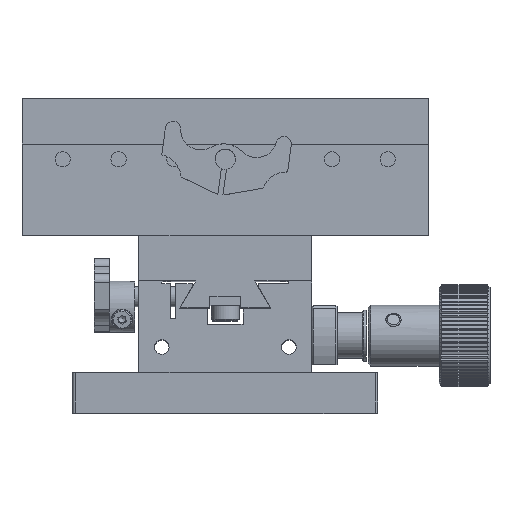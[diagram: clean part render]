
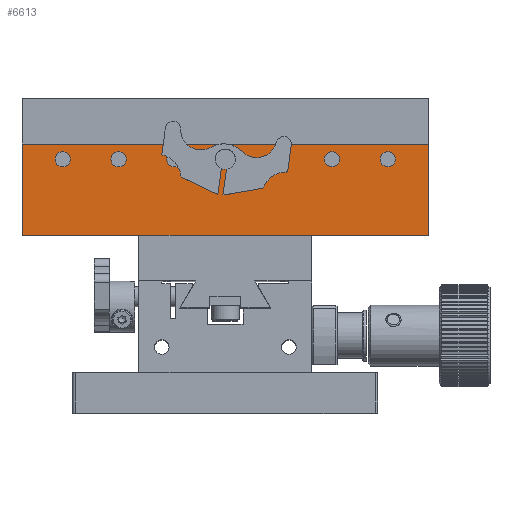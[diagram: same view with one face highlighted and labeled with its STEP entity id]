
A CAD part, top view. The second image highlights one B-rep face of the part: STEP entity #6613.
In plain terms, the highlighted planar face has unit normal (0, 0, 1).
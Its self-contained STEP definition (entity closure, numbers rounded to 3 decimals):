
#4124 = AXIS2_PLACEMENT_3D ( 'NONE', #5216, #5215, #5220 ) ;
#4867 = AXIS2_PLACEMENT_3D ( 'NONE', #8070, #8071, #8072 ) ;
#4873 = AXIS2_PLACEMENT_3D ( 'NONE', #8085, #8086, #8087 ) ;
#4876 = AXIS2_PLACEMENT_3D ( 'NONE', #8092, #8093, #8094 ) ;
#4883 = AXIS2_PLACEMENT_3D ( 'NONE', #8102, #8103, #8104 ) ;
#4991 = AXIS2_PLACEMENT_3D ( 'NONE', #16701, #16703, #16705 ) ;
#4993 = AXIS2_PLACEMENT_3D ( 'NONE', #16714, #16716, #16718 ) ;
#4995 = AXIS2_PLACEMENT_3D ( 'NONE', #16731, #16732, #16734 ) ;
#5215 = DIRECTION ( 'NONE',  ( 0., 0., -1. ) ) ;
#5216 = CARTESIAN_POINT ( 'NONE',  ( 15.953, 11.455, 17. ) ) ;
#5218 = PLANE ( 'NONE',  #4124 ) ;
#5220 = DIRECTION ( 'NONE',  ( -1., 0., 0. ) ) ;
#6613 = ADVANCED_FACE ( 'NONE', ( #23711, #23706, #23712, #23710, #23708, #23705, #23704, #23703 ), #5218, .F. ) ;
#7975 = CARTESIAN_POINT ( 'NONE',  ( 15.953, 11.455, 17. ) ) ;
#7976 = DIRECTION ( 'NONE',  ( -1., 0., 0. ) ) ;
#8070 = CARTESIAN_POINT ( 'NONE',  ( -14.047, 26.455, 17. ) ) ;
#8071 = DIRECTION ( 'NONE',  ( 0., 0., 1. ) ) ;
#8072 = DIRECTION ( 'NONE',  ( 1., 0., 0. ) ) ;
#8075 = CARTESIAN_POINT ( 'NONE',  ( 15.953, 29.455, 17. ) ) ;
#8084 = DIRECTION ( 'NONE',  ( -1., 0., 0. ) ) ;
#8085 = CARTESIAN_POINT ( 'NONE',  ( -34.047, 26.455, 17. ) ) ;
#8086 = DIRECTION ( 'NONE',  ( 0., 0., 1. ) ) ;
#8087 = DIRECTION ( 'NONE',  ( 1., 0., 0. ) ) ;
#8092 = CARTESIAN_POINT ( 'NONE',  ( -45.047, 26.455, 17. ) ) ;
#8093 = DIRECTION ( 'NONE',  ( 0., 0., 1. ) ) ;
#8094 = DIRECTION ( 'NONE',  ( 1., 0., 0. ) ) ;
#8102 = CARTESIAN_POINT ( 'NONE',  ( -56.047, 26.455, 17. ) ) ;
#8103 = DIRECTION ( 'NONE',  ( 0., 0., 1. ) ) ;
#8104 = DIRECTION ( 'NONE',  ( 1., 0., 0. ) ) ;
#9368 = ORIENTED_EDGE ( 'NONE', *, *, #21680, .T. ) ;
#9369 = ORIENTED_EDGE ( 'NONE', *, *, #24382, .F. ) ;
#9370 = ORIENTED_EDGE ( 'NONE', *, *, #21637, .F. ) ;
#9371 = ORIENTED_EDGE ( 'NONE', *, *, #24381, .T. ) ;
#9372 = ORIENTED_EDGE ( 'NONE', *, *, #24379, .F. ) ;
#9373 = ORIENTED_EDGE ( 'NONE', *, *, #21686, .F. ) ;
#9374 = ORIENTED_EDGE ( 'NONE', *, *, #21683, .F. ) ;
#9375 = ORIENTED_EDGE ( 'NONE', *, *, #21681, .F. ) ;
#9376 = ORIENTED_EDGE ( 'NONE', *, *, #21674, .F. ) ;
#9377 = ORIENTED_EDGE ( 'NONE', *, *, #24375, .F. ) ;
#9378 = ORIENTED_EDGE ( 'NONE', *, *, #24377, .F. ) ;
#10904 = CARTESIAN_POINT ( 'NONE',  ( -12.547, 26.455, 17. ) ) ;
#10907 = CARTESIAN_POINT ( 'NONE',  ( -32.547, 26.455, 17. ) ) ;
#10909 = CARTESIAN_POINT ( 'NONE',  ( -43.547, 26.455, 17. ) ) ;
#10912 = CARTESIAN_POINT ( 'NONE',  ( -54.547, 26.455, 17. ) ) ;
#10953 = CARTESIAN_POINT ( 'NONE',  ( -1.547, 26.455, 17. ) ) ;
#10954 = CARTESIAN_POINT ( 'NONE',  ( 9.453, 26.455, 17. ) ) ;
#10955 = CARTESIAN_POINT ( 'NONE',  ( -22.397, 26.455, 17. ) ) ;
#12690 = VECTOR ( 'NONE', #7976, 1000. ) ;
#12693 = LINE ( 'NONE', #7975, #12690 ) ;
#14868 = EDGE_LOOP ( 'NONE', ( #9371, #9370, #9369, #9368 ) ) ;
#14869 = EDGE_LOOP ( 'NONE', ( #9372 ) ) ;
#14870 = EDGE_LOOP ( 'NONE', ( #9373 ) ) ;
#14871 = EDGE_LOOP ( 'NONE', ( #9374 ) ) ;
#14872 = EDGE_LOOP ( 'NONE', ( #9375 ) ) ;
#14873 = EDGE_LOOP ( 'NONE', ( #9376 ) ) ;
#14876 = EDGE_LOOP ( 'NONE', ( #9378 ) ) ;
#14877 = EDGE_LOOP ( 'NONE', ( #9377 ) ) ;
#15960 = CARTESIAN_POINT ( 'NONE',  ( -64.047, 11.455, 17. ) ) ;
#15964 = CARTESIAN_POINT ( 'NONE',  ( 15.953, 11.455, 17. ) ) ;
#15966 = CARTESIAN_POINT ( 'NONE',  ( -64.047, 29.455, 17. ) ) ;
#15970 = CARTESIAN_POINT ( 'NONE',  ( 15.953, 29.455, 17. ) ) ;
#16701 = CARTESIAN_POINT ( 'NONE',  ( -3.047, 26.455, 17. ) ) ;
#16703 = DIRECTION ( 'NONE',  ( 0., 0., 1. ) ) ;
#16705 = DIRECTION ( 'NONE',  ( 1., 0., 0. ) ) ;
#16714 = CARTESIAN_POINT ( 'NONE',  ( 7.953, 26.455, 17. ) ) ;
#16716 = DIRECTION ( 'NONE',  ( 0., 0., 1. ) ) ;
#16718 = DIRECTION ( 'NONE',  ( 1., 0., 0. ) ) ;
#16731 = CARTESIAN_POINT ( 'NONE',  ( -24.047, 26.455, 17. ) ) ;
#16732 = DIRECTION ( 'NONE',  ( 0., 0., 1. ) ) ;
#16734 = DIRECTION ( 'NONE',  ( 1., 0., 0. ) ) ;
#16742 = CARTESIAN_POINT ( 'NONE',  ( -64.047, 11.455, 17. ) ) ;
#16744 = DIRECTION ( 'NONE',  ( 0., -1., 0. ) ) ;
#16746 = CARTESIAN_POINT ( 'NONE',  ( 15.953, 11.455, 17. ) ) ;
#16749 = DIRECTION ( 'NONE',  ( 0., -1., 0. ) ) ;
#21637 = EDGE_CURVE ( 'NONE', #22459, #22455, #12693, .T. ) ;
#21674 = EDGE_CURVE ( 'NONE', #24889, #24889, #23211, .T. ) ;
#21680 = EDGE_CURVE ( 'NONE', #22465, #22461, #23200, .T. ) ;
#21681 = EDGE_CURVE ( 'NONE', #24886, #24886, #23202, .T. ) ;
#21683 = EDGE_CURVE ( 'NONE', #24884, #24884, #23195, .T. ) ;
#21686 = EDGE_CURVE ( 'NONE', #24881, #24881, #23192, .T. ) ;
#22455 = VERTEX_POINT ( 'NONE', #15960 ) ;
#22459 = VERTEX_POINT ( 'NONE', #15964 ) ;
#22461 = VERTEX_POINT ( 'NONE', #15966 ) ;
#22465 = VERTEX_POINT ( 'NONE', #15970 ) ;
#23016 = VECTOR ( 'NONE', #16749, 1000. ) ;
#23018 = LINE ( 'NONE', #16742, #23023 ) ;
#23019 = LINE ( 'NONE', #16746, #23016 ) ;
#23023 = VECTOR ( 'NONE', #16744, 1000. ) ;
#23025 = CIRCLE ( 'NONE', #4995, 1.65 ) ;
#23026 = CIRCLE ( 'NONE', #4991, 1.5 ) ;
#23045 = CIRCLE ( 'NONE', #4993, 1.5 ) ;
#23192 = CIRCLE ( 'NONE', #4883, 1.5 ) ;
#23195 = CIRCLE ( 'NONE', #4876, 1.5 ) ;
#23198 = VECTOR ( 'NONE', #8084, 1000. ) ;
#23200 = LINE ( 'NONE', #8075, #23198 ) ;
#23202 = CIRCLE ( 'NONE', #4873, 1.5 ) ;
#23211 = CIRCLE ( 'NONE', #4867, 1.5 ) ;
#23703 = FACE_OUTER_BOUND ( 'NONE', #14868, .T. ) ;
#23704 = FACE_BOUND ( 'NONE', #14869, .T. ) ;
#23705 = FACE_BOUND ( 'NONE', #14870, .T. ) ;
#23706 = FACE_BOUND ( 'NONE', #14877, .T. ) ;
#23708 = FACE_BOUND ( 'NONE', #14871, .T. ) ;
#23710 = FACE_BOUND ( 'NONE', #14872, .T. ) ;
#23711 = FACE_BOUND ( 'NONE', #14876, .T. ) ;
#23712 = FACE_BOUND ( 'NONE', #14873, .T. ) ;
#24375 = EDGE_CURVE ( 'NONE', #24840, #24840, #23026, .T. ) ;
#24377 = EDGE_CURVE ( 'NONE', #24839, #24839, #23045, .T. ) ;
#24379 = EDGE_CURVE ( 'NONE', #24838, #24838, #23025, .T. ) ;
#24381 = EDGE_CURVE ( 'NONE', #22461, #22455, #23018, .T. ) ;
#24382 = EDGE_CURVE ( 'NONE', #22465, #22459, #23019, .T. ) ;
#24838 = VERTEX_POINT ( 'NONE', #10955 ) ;
#24839 = VERTEX_POINT ( 'NONE', #10954 ) ;
#24840 = VERTEX_POINT ( 'NONE', #10953 ) ;
#24881 = VERTEX_POINT ( 'NONE', #10912 ) ;
#24884 = VERTEX_POINT ( 'NONE', #10909 ) ;
#24886 = VERTEX_POINT ( 'NONE', #10907 ) ;
#24889 = VERTEX_POINT ( 'NONE', #10904 ) ;
